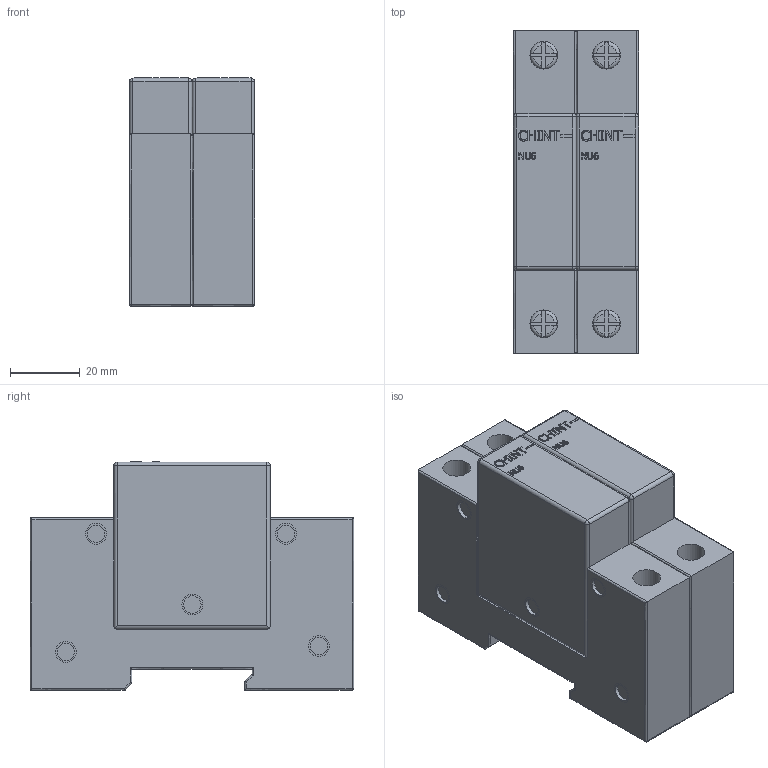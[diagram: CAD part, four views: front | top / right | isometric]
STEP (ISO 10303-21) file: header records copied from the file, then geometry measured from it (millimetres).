
FILE_DESCRIPTION(/* description */ (''),/* implementation_level */ '2;1');
FILE_NAME(/* name */ 'D:\CHINT\NU6\Имп. ограничитель NU6 40kA 2P (CHINT).stp',/* time_stamp */ '2017-09-30T15:55:12+04:00',/* author */ ('RSagdiev'),/* organization */ (''),/* preprocessor_version */ 'ST-DEVELOPER v16.5',/* originating_system */ 'Autodesk Inventor 2017',/* authorisation */ '');
FILE_SCHEMA (('AUTOMOTIVE_DESIGN { 1 0 10303 214 3 1 1 }'));
Length unit declared in the file: millimetre
Products named in the file (1): Имп. \X2\043E043304400430043D04380447
043804420435043B044C\X0\ NU6 40kA 2P (CHINT)
Bounding box: 36 x 93 x 65.6 mm (x, y, z)
Volume: 182600.5 mm3; surface area: 42857.1 mm2
Topology: 28 solids, 28 shells, 584 faces, 1370 edges, 880 vertices
Faces by surface type: plane 338, bspline 118, cylinder 116, sphere 8, torus 4
Full cylindrical faces by diameter (mm): 5 x20, 6 x38, 8 x8
Entity records: 18218 total; most frequent: CARTESIAN_POINT 5571, ORIENTED_EDGE 2584, DIRECTION 2270, EDGE_CURVE 1292, VERTEX_POINT 876, LINE 820, VECTOR 820, EDGE_LOOP 736
